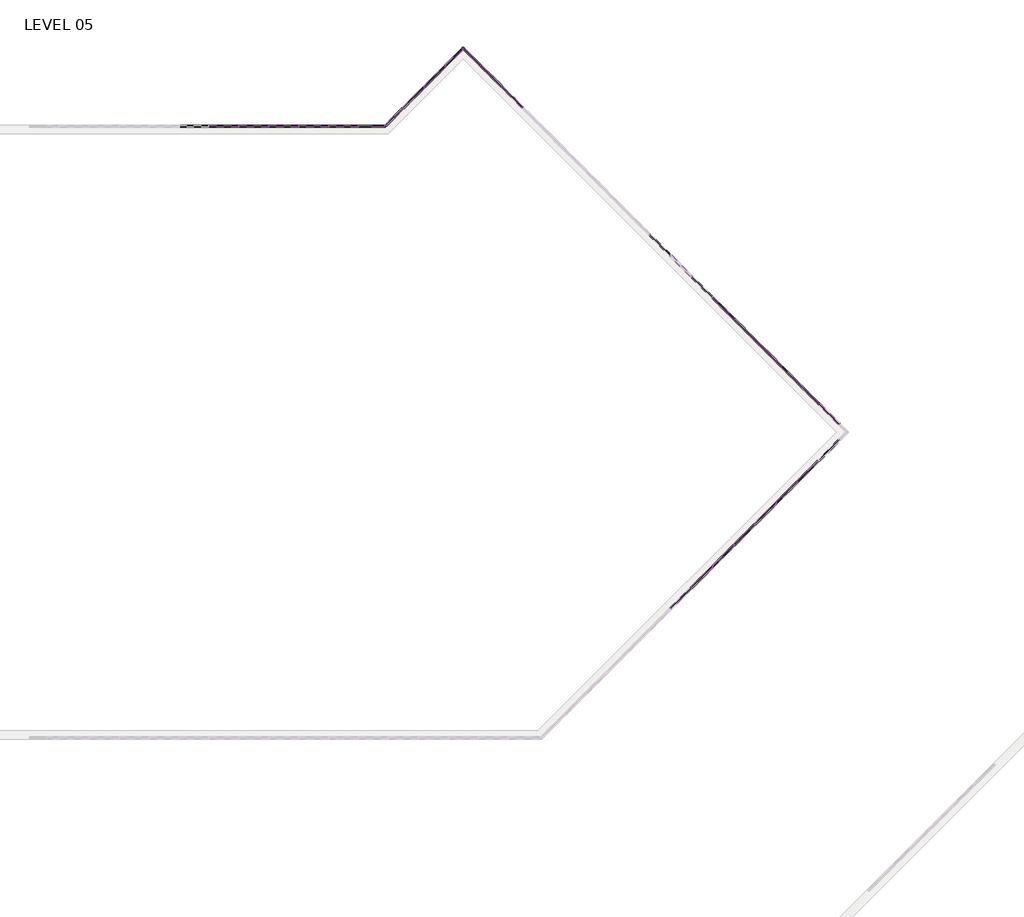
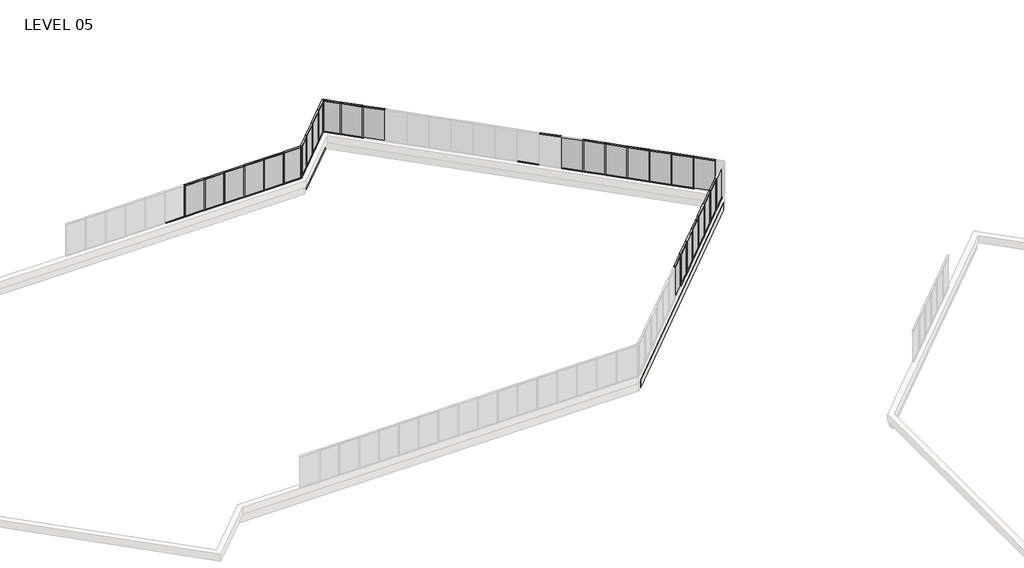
# One storey, part 15 of 17: 82 members, 28 plates, 2 walls.
"""IFC4 building model written with IfcOpenShell, lengths in millimetres."""

from ifc_helpers import new_model, si_unit, origin, place, context, project, spatial, faceted_brep, transform, mapped, element, save
from components import member_5247f267, member_e44af9ab, member_800970d4, member_45eb7f2e, member_ed9c17d6, member_53409b32, member_43bac76b, member_0b71a88d, plate_67294edd, plate_048e4634, plate_aaac5d3d, plate_9c66726c, plate_e0fd5134, plate_62af1d3c, plate_903242d9, plate_0d1907f3, plate_15429445

model = new_model("IFC4")

# Units and contexts
model_context = context("Model", 3, world=origin())
ifc_project = project(units=[si_unit("LENGTHUNIT", "METRE", prefix="MILLI")], contexts=[model_context])

# Site, building, storey
site = spatial("IfcSite", under=ifc_project)
building = spatial("IfcBuilding", under=site)
storey = spatial("IfcBuildingStorey", under=building, Name="LEVEL 05", Elevation=15824.2)

# Members
placement = place(None, origin())
member_shape = member_5247f267(model_context)
element("IfcMember", 1, ObjectType="Rectangular Mullion : 2\" x 4.5\" rectangular", at=placement, inside=storey, context=model_context, shape_type="MappedRepresentation", body=[
    mapped(member_shape, transform((39706.55, 120127.9523049, 15824.2), x_axis=(0.0, 0.0, -1.0), y_axis=(0.0, 1.0, 0.0), z_axis=(1.0, 0.0, 0.0))),
])
element("IfcMember", 2, ObjectType="Rectangular Mullion : 2\" x 4.5\" rectangular", at=placement, inside=storey, context=model_context, shape_type="MappedRepresentation", body=[
    mapped(member_shape, transform((38182.55, 120127.9523049, 15824.2), x_axis=(0.0, 0.0, -1.0), y_axis=(0.0, 1.0, 0.0), z_axis=(1.0, 0.0, 0.0))),
])
element("IfcMember", 3, ObjectType="Rectangular Mullion : 2\" x 4.5\" rectangular", at=placement, inside=storey, context=model_context, shape_type="MappedRepresentation", body=[
    mapped(member_shape, transform((36658.55, 120127.9523049, 15824.2), x_axis=(0.0, 0.0, -1.0), y_axis=(0.0, 1.0, 0.0), z_axis=(1.0, 0.0, 0.0))),
])
element("IfcMember", 4, ObjectType="Rectangular Mullion : 2\" x 4.5\" rectangular", at=placement, inside=storey, context=model_context, shape_type="MappedRepresentation", body=[
    mapped(member_shape, transform((35134.55, 120127.9523049, 15824.2), x_axis=(0.0, 0.0, -1.0), y_axis=(0.0, 1.0, 0.0), z_axis=(1.0, 0.0, 0.0))),
])
element("IfcMember", 5, ObjectType="Rectangular Mullion : 2\" x 4.5\" rectangular", at=placement, inside=storey, context=model_context, shape_type="MappedRepresentation", body=[
    mapped(member_shape, transform((32086.55, 120127.9523049, 15824.2), x_axis=(0.0, 0.0, -1.0), y_axis=(0.0, 1.0, 0.0), z_axis=(1.0, 0.0, 0.0))),
])
element("IfcMember", 6, ObjectType="Rectangular Mullion : 2\" x 4.5\" rectangular", at=placement, inside=storey, context=model_context, shape_type="MappedRepresentation", body=[
    mapped(member_shape, transform((33610.55, 120127.9523049, 15824.2), x_axis=(0.0, 0.0, -1.0), y_axis=(0.0, 1.0, 0.0), z_axis=(1.0, 0.0, 0.0))),
])
element("IfcMember", 7, ObjectType="Rectangular Mullion : 2\" x 4.5\" rectangular", at=placement, inside=storey, context=model_context, shape_type="MappedRepresentation", body=[
    mapped(member_shape, transform((56719.8907816, 96634.0369509, 15824.2), x_axis=(0.0, 0.0, -1.0), y_axis=(0.7071067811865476, -0.7071067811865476, 0.0), z_axis=(-0.7071067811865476, -0.7071067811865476, 0.0))),
])
element("IfcMember", 8, ObjectType="Rectangular Mullion : 2\" x 4.5\" rectangular", at=placement, inside=storey, context=model_context, shape_type="MappedRepresentation", body=[
    mapped(member_shape, transform((57797.5067145, 97711.6528837, 15824.2), x_axis=(0.0, 0.0, -1.0), y_axis=(0.7071067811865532, -0.7071067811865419, 0.0), z_axis=(-0.7071067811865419, -0.7071067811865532, 0.0))),
])
element("IfcMember", 9, ObjectType="Rectangular Mullion : 2\" x 4.5\" rectangular", at=placement, inside=storey, context=model_context, shape_type="MappedRepresentation", body=[
    mapped(member_shape, transform((58875.1226473, 98789.2688165, 15824.2), x_axis=(0.0, 0.0, -1.0), y_axis=(0.7071067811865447, -0.7071067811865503, 0.0), z_axis=(-0.7071067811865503, -0.7071067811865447, 0.0))),
])
element("IfcMember", 10, ObjectType="Rectangular Mullion : 2\" x 4.5\" rectangular", at=placement, inside=storey, context=model_context, shape_type="MappedRepresentation", body=[
    mapped(member_shape, transform((61030.3693146, 100944.5154839, 15824.2), x_axis=(0.0, 0.0, -1.0), y_axis=(0.7071067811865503, -0.7071067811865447, 0.0), z_axis=(-0.7071067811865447, -0.7071067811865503, 0.0))),
])
element("IfcMember", 11, ObjectType="Rectangular Mullion : 2\" x 4.5\" rectangular", at=placement, inside=storey, context=model_context, shape_type="MappedRepresentation", body=[
    mapped(member_shape, transform((59952.7459809, 99866.8921502, 15824.2), x_axis=(0.0, 0.0, -1.0), y_axis=(0.7071067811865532, -0.7071067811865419, 0.0), z_axis=(-0.7071067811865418, -0.7071067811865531, 0.0))),
])
element("IfcMember", 12, ObjectType="Rectangular Mullion : 2\" x 4.5\" rectangular", at=placement, inside=storey, context=model_context, shape_type="MappedRepresentation", body=[
    mapped(member_shape, transform((62108.0000491, 102022.1462184, 15824.2), x_axis=(0.0, 0.0, -1.0), y_axis=(0.7071067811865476, -0.7071067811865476, 0.0), z_axis=(-0.7071067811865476, -0.7071067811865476, 0.0))),
])
element("IfcMember", 13, ObjectType="Rectangular Mullion : 2\" x 4.5\" rectangular", at=placement, inside=storey, context=model_context, shape_type="MappedRepresentation", body=[
    mapped(member_shape, transform((63185.6307836, 103099.7769529, 15824.2), x_axis=(0.0, 0.0, -1.0), y_axis=(0.7071067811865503, -0.7071067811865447, 0.0), z_axis=(-0.7071067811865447, -0.7071067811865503, 0.0))),
])
element("IfcMember", 14, ObjectType="Rectangular Mullion : 2\" x 4.5\" rectangular", at=placement, inside=storey, context=model_context, shape_type="MappedRepresentation", body=[
    mapped(member_shape, transform((62072.0790246, 107097.5294159, 15824.2), x_axis=(0.0, 0.0, -1.0), y_axis=(0.7071067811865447, 0.7071067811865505, 0.0), z_axis=(0.7071067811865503, -0.7071067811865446, 0.0))),
])
element("IfcMember", 15, ObjectType="Rectangular Mullion : 2\" x 4.5\" rectangular", at=placement, inside=storey, context=model_context, shape_type="MappedRepresentation", body=[
    mapped(member_shape, transform((60994.4482901, 108175.1601505, 15824.2), x_axis=(0.0, 0.0, -1.0), y_axis=(0.7071067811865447, 0.7071067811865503, 0.0), z_axis=(0.7071067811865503, -0.7071067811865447, 0.0))),
])
element("IfcMember", 16, ObjectType="Rectangular Mullion : 2\" x 4.5\" rectangular", at=placement, inside=storey, context=model_context, shape_type="MappedRepresentation", body=[
    mapped(member_shape, transform((58839.2225556, 110330.385885, 15824.2), x_axis=(0.0, 0.0, -1.0), y_axis=(0.7071067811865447, 0.7071067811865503, 0.0), z_axis=(0.7071067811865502, -0.7071067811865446, 0.0))),
])
element("IfcMember", 17, ObjectType="Rectangular Mullion : 2\" x 4.5\" rectangular", at=placement, inside=storey, context=model_context, shape_type="MappedRepresentation", body=[
    mapped(member_shape, transform((57761.6275556, 111407.980885, 15824.2), x_axis=(0.0, 0.0, -1.0), y_axis=(0.7071067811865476, 0.7071067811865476, 0.0), z_axis=(0.7071067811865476, -0.7071067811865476, 0.0))),
])
element("IfcMember", 18, ObjectType="Rectangular Mullion : 2\" x 4.5\" rectangular", at=placement, inside=storey, context=model_context, shape_type="MappedRepresentation", body=[
    mapped(member_shape, transform((63149.7097592, 106019.8986814, 15824.2), x_axis=(0.0, 0.0, -1.0), y_axis=(0.7071067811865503, 0.7071067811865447, 0.0), z_axis=(0.7071067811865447, -0.7071067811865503, 0.0))),
])
element("IfcMember", 19, ObjectType="Rectangular Mullion : 2\" x 4.5\" rectangular", at=placement, inside=storey, context=model_context, shape_type="MappedRepresentation", body=[
    mapped(member_shape, transform((59916.8354228, 109252.7730177, 15824.2), x_axis=(0.0, 0.0, -1.0), y_axis=(0.7071067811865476, 0.7071067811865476, 0.0), z_axis=(0.7071067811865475, -0.7071067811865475, 0.0))),
])
element("IfcMember", 20, ObjectType="Rectangular Mullion : 2\" x 4.5\" rectangular", at=placement, inside=storey, context=model_context, shape_type="MappedRepresentation", body=[
    mapped(member_shape, transform((47009.3767128, 122160.2317277, 15824.2), x_axis=(0.0, 0.0, -1.0), y_axis=(0.7071067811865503, 0.7071067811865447, 0.0), z_axis=(0.7071067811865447, -0.7071067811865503, 0.0))),
])
element("IfcMember", 21, ObjectType="Rectangular Mullion : 2\" x 4.5\" rectangular", at=placement, inside=storey, context=model_context, shape_type="MappedRepresentation", body=[
    mapped(member_shape, transform((43059.572889, 122097.2813296, 15824.2), x_axis=(0.0, 0.0, -1.0), y_axis=(-0.7071067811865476, 0.7071067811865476, 0.0), z_axis=(0.7071067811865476, 0.7071067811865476, 0.0))),
])
element("IfcMember", 22, ObjectType="Rectangular Mullion : 2\" x 4.5\" rectangular", at=placement, inside=storey, context=model_context, shape_type="MappedRepresentation", body=[
    mapped(member_shape, transform((44137.2036235, 123174.9120641, 15824.2), x_axis=(0.0, 0.0, -1.0), y_axis=(-0.7071067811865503, 0.7071067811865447, 0.0), z_axis=(0.7071067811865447, 0.7071067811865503, 0.0))),
])
element("IfcMember", 23, ObjectType="Rectangular Mullion : 2\" x 4.5\" rectangular", at=placement, inside=storey, context=model_context, shape_type="MappedRepresentation", body=[
    mapped(member_shape, transform((38233.35, 120127.9523049, 18415.0), x_axis=(0.0, 0.0, 1.0), y_axis=(0.0, 1.0, 0.0), z_axis=(-1.0, 0.0, 0.0))),
])
element("IfcMember", 24, ObjectType="Rectangular Mullion : 2\" x 4.5\" rectangular", at=placement, inside=storey, context=model_context, shape_type="MappedRepresentation", body=[
    mapped(member_shape, transform((36709.35, 120127.9523049, 18415.0), x_axis=(0.0, 0.0, 1.0), y_axis=(0.0, 1.0, 0.0), z_axis=(-1.0, 0.0, 0.0))),
])
element("IfcMember", 25, ObjectType="Rectangular Mullion : 2\" x 4.5\" rectangular", at=placement, inside=storey, context=model_context, shape_type="MappedRepresentation", body=[
    mapped(member_shape, transform((35185.35, 120127.9523049, 18415.0), x_axis=(0.0, 0.0, 1.0), y_axis=(0.0, 1.0, 0.0), z_axis=(-1.0, 0.0, 0.0))),
])
element("IfcMember", 26, ObjectType="Rectangular Mullion : 2\" x 4.5\" rectangular", at=placement, inside=storey, context=model_context, shape_type="MappedRepresentation", body=[
    mapped(member_shape, transform((32137.35, 120127.9523049, 18415.0), x_axis=(0.0, 0.0, 1.0), y_axis=(0.0, 1.0, 0.0), z_axis=(-1.0, 0.0, 0.0))),
])
element("IfcMember", 27, ObjectType="Rectangular Mullion : 2\" x 4.5\" rectangular", at=placement, inside=storey, context=model_context, shape_type="MappedRepresentation", body=[
    mapped(member_shape, transform((33661.35, 120127.9523049, 18415.0), x_axis=(0.0, 0.0, 1.0), y_axis=(0.0, 1.0, 0.0), z_axis=(-1.0, 0.0, 0.0))),
])
element("IfcMember", 28, ObjectType="Rectangular Mullion : 2\" x 4.5\" rectangular", at=placement, inside=storey, context=model_context, shape_type="MappedRepresentation", body=[
    mapped(member_shape, transform((56683.9697572, 96598.1159265, 18415.0), x_axis=(0.0, 0.0, 1.0), y_axis=(0.7071067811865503, -0.7071067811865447, 0.0), z_axis=(0.7071067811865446, 0.7071067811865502, 0.0))),
])
element("IfcMember", 29, ObjectType="Rectangular Mullion : 2\" x 4.5\" rectangular", at=placement, inside=storey, context=model_context, shape_type="MappedRepresentation", body=[
    mapped(member_shape, transform((57761.58569, 97675.7318593, 18415.0), x_axis=(0.0, 0.0, 1.0), y_axis=(0.7071067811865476, -0.7071067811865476, 0.0), z_axis=(0.7071067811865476, 0.7071067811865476, 0.0))),
])
element("IfcMember", 30, ObjectType="Rectangular Mullion : 2\" x 4.5\" rectangular", at=placement, inside=storey, context=model_context, shape_type="MappedRepresentation", body=[
    mapped(member_shape, transform((58839.2016228, 98753.3477921, 18415.0), x_axis=(0.0, 0.0, 1.0), y_axis=(0.7071067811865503, -0.7071067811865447, 0.0), z_axis=(0.7071067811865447, 0.7071067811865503, 0.0))),
])
element("IfcMember", 31, ObjectType="Rectangular Mullion : 2\" x 4.5\" rectangular", at=placement, inside=storey, context=model_context, shape_type="MappedRepresentation", body=[
    mapped(member_shape, transform((60994.4482901, 100908.5944594, 18415.0), x_axis=(0.0, 0.0, 1.0), y_axis=(0.7071067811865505, -0.7071067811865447, 0.0), z_axis=(0.7071067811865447, 0.7071067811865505, 0.0))),
])
element("IfcMember", 32, ObjectType="Rectangular Mullion : 2\" x 4.5\" rectangular", at=placement, inside=storey, context=model_context, shape_type="MappedRepresentation", body=[
    mapped(member_shape, transform((59916.8249564, 99830.9711257, 18415.0), x_axis=(0.0, 0.0, 1.0), y_axis=(0.7071067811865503, -0.7071067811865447, 0.0), z_axis=(0.7071067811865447, 0.7071067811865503, 0.0))),
])
element("IfcMember", 33, ObjectType="Rectangular Mullion : 2\" x 4.5\" rectangular", at=placement, inside=storey, context=model_context, shape_type="MappedRepresentation", body=[
    mapped(member_shape, transform((62072.0790246, 101986.2251939, 18415.0), x_axis=(0.0, 0.0, 1.0), y_axis=(0.7071067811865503, -0.7071067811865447, 0.0), z_axis=(0.7071067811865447, 0.7071067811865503, 0.0))),
])
element("IfcMember", 34, ObjectType="Rectangular Mullion : 2\" x 4.5\" rectangular", at=placement, inside=storey, context=model_context, shape_type="MappedRepresentation", body=[
    mapped(member_shape, transform((63149.7097592, 103063.8559285, 18415.0), x_axis=(0.0, 0.0, 1.0), y_axis=(0.7071067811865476, -0.7071067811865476, 0.0), z_axis=(0.7071067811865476, 0.7071067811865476, 0.0))),
])
element("IfcMember", 35, ObjectType="Rectangular Mullion : 2\" x 4.5\" rectangular", at=placement, inside=storey, context=model_context, shape_type="MappedRepresentation", body=[
    mapped(member_shape, transform((62108.0000491, 107061.6083914, 18415.0), x_axis=(0.0, 0.0, 1.0), y_axis=(0.7071067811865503, 0.7071067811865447, 0.0), z_axis=(-0.7071067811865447, 0.7071067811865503, 0.0))),
])
element("IfcMember", 36, ObjectType="Rectangular Mullion : 2\" x 4.5\" rectangular", at=placement, inside=storey, context=model_context, shape_type="MappedRepresentation", body=[
    mapped(member_shape, transform((61030.3693146, 108139.239126, 18415.0), x_axis=(0.0, 0.0, 1.0), y_axis=(0.7071067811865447, 0.7071067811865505, 0.0), z_axis=(-0.7071067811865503, 0.7071067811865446, 0.0))),
])
element("IfcMember", 37, ObjectType="Rectangular Mullion : 2\" x 4.5\" rectangular", at=placement, inside=storey, context=model_context, shape_type="MappedRepresentation", body=[
    mapped(member_shape, transform((58875.1435801, 110294.4648605, 18415.0), x_axis=(0.0, 0.0, 1.0), y_axis=(0.7071067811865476, 0.7071067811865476, 0.0), z_axis=(-0.7071067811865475, 0.7071067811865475, 0.0))),
])
element("IfcMember", 38, ObjectType="Rectangular Mullion : 2\" x 4.5\" rectangular", at=placement, inside=storey, context=model_context, shape_type="MappedRepresentation", body=[
    mapped(member_shape, transform((57797.5485801, 111372.0598605, 18415.0), x_axis=(0.0, 0.0, 1.0), y_axis=(0.7071067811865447, 0.7071067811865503, 0.0), z_axis=(-0.7071067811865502, 0.7071067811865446, 0.0))),
])
element("IfcMember", 39, ObjectType="Rectangular Mullion : 2\" x 4.5\" rectangular", at=placement, inside=storey, context=model_context, shape_type="MappedRepresentation", body=[
    mapped(member_shape, transform((55642.3585801, 113527.2498605, 18415.0), x_axis=(0.0, 0.0, 1.0), y_axis=(0.7071067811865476, 0.7071067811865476, 0.0), z_axis=(-0.7071067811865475, 0.7071067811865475, 0.0))),
])
element("IfcMember", 40, ObjectType="Rectangular Mullion : 2\" x 4.5\" rectangular", at=placement, inside=storey, context=model_context, shape_type="MappedRepresentation", body=[
    mapped(member_shape, transform((63185.6307836, 105983.9776569, 18415.0), x_axis=(0.0, 0.0, 1.0), y_axis=(0.7071067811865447, 0.7071067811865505, 0.0), z_axis=(-0.7071067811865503, 0.7071067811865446, 0.0))),
])
element("IfcMember", 41, ObjectType="Rectangular Mullion : 2\" x 4.5\" rectangular", at=placement, inside=storey, context=model_context, shape_type="MappedRepresentation", body=[
    mapped(member_shape, transform((59952.7564473, 109216.8519932, 18415.0), x_axis=(0.0, 0.0, 1.0), y_axis=(0.7071067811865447, 0.7071067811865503, 0.0), z_axis=(-0.7071067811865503, 0.7071067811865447, 0.0))),
])
element("IfcMember", 42, ObjectType="Rectangular Mullion : 2\" x 4.5\" rectangular", at=placement, inside=storey, context=model_context, shape_type="MappedRepresentation", body=[
    mapped(member_shape, transform((47045.2977373, 122124.3107033, 18415.0), x_axis=(0.0, 0.0, 1.0), y_axis=(0.7071067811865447, 0.7071067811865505, 0.0), z_axis=(-0.7071067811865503, 0.7071067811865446, 0.0))),
])
element("IfcMember", 43, ObjectType="Rectangular Mullion : 2\" x 4.5\" rectangular", at=placement, inside=storey, context=model_context, shape_type="MappedRepresentation", body=[
    mapped(member_shape, transform((45967.6670028, 123201.9414378, 18415.0), x_axis=(0.0, 0.0, 1.0), y_axis=(0.7071067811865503, 0.7071067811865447, 0.0), z_axis=(-0.7071067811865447, 0.7071067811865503, 0.0))),
])
element("IfcMember", 44, ObjectType="Rectangular Mullion : 2\" x 4.5\" rectangular", at=placement, inside=storey, context=model_context, shape_type="MappedRepresentation", body=[
    mapped(member_shape, transform((43095.4939135, 122133.202354, 18415.0), x_axis=(0.0, 0.0, 1.0), y_axis=(-0.7071067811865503, 0.7071067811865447, 0.0), z_axis=(-0.7071067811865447, -0.7071067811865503, 0.0))),
])
element("IfcMember", 45, ObjectType="Rectangular Mullion : 2\" x 4.5\" rectangular", at=placement, inside=storey, context=model_context, shape_type="MappedRepresentation", body=[
    mapped(member_shape, transform((42017.863179, 121055.5716195, 18415.0), x_axis=(0.0, 0.0, 1.0), y_axis=(-0.7071067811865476, 0.7071067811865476, 0.0), z_axis=(-0.7071067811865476, -0.7071067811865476, 0.0))),
])
member_2_shape = member_e44af9ab(model_context)
element("IfcMember", 46, ObjectType="Rectangular Mullion : 2\" x 4.5\" rectangular", at=placement, inside=storey, context=model_context, shape_type="MappedRepresentation", body=[
    mapped(member_2_shape, transform((39731.95, 120127.9523049, 15824.2), x_axis=(-1.0, 0.0, 0.0), y_axis=(0.0, 1.0, 0.0), z_axis=(0.0, 0.0, -1.0))),
])
element("IfcMember", 47, ObjectType="Rectangular Mullion : 2\" x 4.5\" rectangular", at=placement, inside=storey, context=model_context, shape_type="MappedRepresentation", body=[
    mapped(member_2_shape, transform((38207.95, 120127.9523049, 15824.2), x_axis=(-1.0, 0.0, 0.0), y_axis=(0.0, 1.0, 0.0), z_axis=(0.0, 0.0, -1.0))),
])
element("IfcMember", 48, ObjectType="Rectangular Mullion : 2\" x 4.5\" rectangular", at=placement, inside=storey, context=model_context, shape_type="MappedRepresentation", body=[
    mapped(member_2_shape, transform((36683.95, 120127.9523049, 15824.2), x_axis=(-1.0, 0.0, 0.0), y_axis=(0.0, 1.0, 0.0), z_axis=(0.0, 0.0, -1.0))),
])
element("IfcMember", 49, ObjectType="Rectangular Mullion : 2\" x 4.5\" rectangular", at=placement, inside=storey, context=model_context, shape_type="MappedRepresentation", body=[
    mapped(member_2_shape, transform((35159.95, 120127.9523049, 15824.2), x_axis=(-1.0, 0.0, 0.0), y_axis=(0.0, 1.0, 0.0), z_axis=(0.0, 0.0, -1.0))),
])
element("IfcMember", 50, ObjectType="Rectangular Mullion : 2\" x 4.5\" rectangular", at=placement, inside=storey, context=model_context, shape_type="MappedRepresentation", body=[
    mapped(member_2_shape, transform((32111.95, 120127.9523049, 15824.2), x_axis=(-1.0, 0.0, 0.0), y_axis=(0.0, 1.0, 0.0), z_axis=(0.0, 0.0, -1.0))),
])
element("IfcMember", 51, ObjectType="Rectangular Mullion : 2\" x 4.5\" rectangular", at=placement, inside=storey, context=model_context, shape_type="MappedRepresentation", body=[
    mapped(member_2_shape, transform((33635.95, 120127.9523049, 15824.2), x_axis=(-1.0, 0.0, 0.0), y_axis=(0.0, 1.0, 0.0), z_axis=(0.0, 0.0, -1.0))),
])
element("IfcMember", 52, ObjectType="Rectangular Mullion : 2\" x 4.5\" rectangular", at=placement, inside=storey, context=model_context, shape_type="MappedRepresentation", body=[
    mapped(member_2_shape, transform((56701.9302694, 96616.0764387, 15824.2), x_axis=(0.7071067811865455, 0.7071067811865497, 0.0), y_axis=(0.7071067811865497, -0.7071067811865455, 0.0), z_axis=(0.0, 0.0, -1.0))),
])
element("IfcMember", 53, ObjectType="Rectangular Mullion : 2\" x 4.5\" rectangular", at=placement, inside=storey, context=model_context, shape_type="MappedRepresentation", body=[
    mapped(member_2_shape, transform((57779.5462022, 97693.6923715, 15824.2), x_axis=(0.7071067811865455, 0.7071067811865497, 0.0), y_axis=(0.7071067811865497, -0.7071067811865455, 0.0), z_axis=(0.0, 0.0, -1.0))),
])
element("IfcMember", 54, ObjectType="Rectangular Mullion : 2\" x 4.5\" rectangular", at=placement, inside=storey, context=model_context, shape_type="MappedRepresentation", body=[
    mapped(member_2_shape, transform((58857.162135, 98771.3083043, 15824.2), x_axis=(0.7071067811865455, 0.7071067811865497, 0.0), y_axis=(0.7071067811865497, -0.7071067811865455, 0.0), z_axis=(0.0, 0.0, -1.0))),
])
element("IfcMember", 55, ObjectType="Rectangular Mullion : 2\" x 4.5\" rectangular", at=placement, inside=storey, context=model_context, shape_type="MappedRepresentation", body=[
    mapped(member_2_shape, transform((61012.4088023, 100926.5549716, 15824.2), x_axis=(0.7071067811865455, 0.7071067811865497, 0.0), y_axis=(0.7071067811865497, -0.7071067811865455, 0.0), z_axis=(0.0, 0.0, -1.0))),
])
element("IfcMember", 56, ObjectType="Rectangular Mullion : 2\" x 4.5\" rectangular", at=placement, inside=storey, context=model_context, shape_type="MappedRepresentation", body=[
    mapped(member_2_shape, transform((59934.7854687, 99848.931638, 15824.2), x_axis=(0.7071067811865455, 0.7071067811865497, 0.0), y_axis=(0.7071067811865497, -0.7071067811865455, 0.0), z_axis=(0.0, 0.0, -1.0))),
])
element("IfcMember", 57, ObjectType="Rectangular Mullion : 2\" x 4.5\" rectangular", at=placement, inside=storey, context=model_context, shape_type="MappedRepresentation", body=[
    mapped(member_2_shape, transform((62090.0395369, 102004.1857062, 15824.2), x_axis=(0.7071067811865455, 0.7071067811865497, 0.0), y_axis=(0.7071067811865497, -0.7071067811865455, 0.0), z_axis=(0.0, 0.0, -1.0))),
])
element("IfcMember", 58, ObjectType="Rectangular Mullion : 2\" x 4.5\" rectangular", at=placement, inside=storey, context=model_context, shape_type="MappedRepresentation", body=[
    mapped(member_2_shape, transform((63167.6702714, 103081.8164407, 15824.2), x_axis=(0.7071067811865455, 0.7071067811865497, 0.0), y_axis=(0.7071067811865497, -0.7071067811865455, 0.0), z_axis=(0.0, 0.0, -1.0))),
])
element("IfcMember", 59, ObjectType="Rectangular Mullion : 2\" x 4.5\" rectangular", at=placement, inside=storey, context=model_context, shape_type="MappedRepresentation", body=[
    mapped(member_2_shape, transform((62090.0395369, 107079.5689037, 15824.2), x_axis=(-0.7071067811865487, 0.7071067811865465, 0.0), y_axis=(0.7071067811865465, 0.7071067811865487, 0.0), z_axis=(0.0, 0.0, -1.0))),
])
element("IfcMember", 60, ObjectType="Rectangular Mullion : 2\" x 4.5\" rectangular", at=placement, inside=storey, context=model_context, shape_type="MappedRepresentation", body=[
    mapped(member_2_shape, transform((61012.4088023, 108157.1996382, 15824.2), x_axis=(-0.7071067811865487, 0.7071067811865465, 0.0), y_axis=(0.7071067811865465, 0.7071067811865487, 0.0), z_axis=(0.0, 0.0, -1.0))),
])
element("IfcMember", 61, ObjectType="Rectangular Mullion : 2\" x 4.5\" rectangular", at=placement, inside=storey, context=model_context, shape_type="MappedRepresentation", body=[
    mapped(member_2_shape, transform((58857.1830678, 110312.4253727, 15824.2), x_axis=(-0.7071067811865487, 0.7071067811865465, 0.0), y_axis=(0.7071067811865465, 0.7071067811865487, 0.0), z_axis=(0.0, 0.0, -1.0))),
])
element("IfcMember", 62, ObjectType="Rectangular Mullion : 2\" x 4.5\" rectangular", at=placement, inside=storey, context=model_context, shape_type="MappedRepresentation", body=[
    mapped(member_2_shape, transform((57779.5880678, 111390.0203727, 15824.2), x_axis=(-0.7071067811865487, 0.7071067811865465, 0.0), y_axis=(0.7071067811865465, 0.7071067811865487, 0.0), z_axis=(0.0, 0.0, -1.0))),
])
element("IfcMember", 63, ObjectType="Rectangular Mullion : 2\" x 4.5\" rectangular", at=placement, inside=storey, context=model_context, shape_type="MappedRepresentation", body=[
    mapped(member_2_shape, transform((63167.6702714, 106001.9381692, 15824.2), x_axis=(-0.7071067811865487, 0.7071067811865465, 0.0), y_axis=(0.7071067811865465, 0.7071067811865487, 0.0), z_axis=(0.0, 0.0, -1.0))),
])
element("IfcMember", 64, ObjectType="Rectangular Mullion : 2\" x 4.5\" rectangular", at=placement, inside=storey, context=model_context, shape_type="MappedRepresentation", body=[
    mapped(member_2_shape, transform((59934.7959351, 109234.8125055, 15824.2), x_axis=(-0.7071067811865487, 0.7071067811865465, 0.0), y_axis=(0.7071067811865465, 0.7071067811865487, 0.0), z_axis=(0.0, 0.0, -1.0))),
])
element("IfcMember", 65, ObjectType="Rectangular Mullion : 2\" x 4.5\" rectangular", at=placement, inside=storey, context=model_context, shape_type="MappedRepresentation", body=[
    mapped(member_2_shape, transform((47027.3372251, 122142.2712155, 15824.2), x_axis=(-0.7071067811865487, 0.7071067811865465, 0.0), y_axis=(0.7071067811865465, 0.7071067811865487, 0.0), z_axis=(0.0, 0.0, -1.0))),
])
element("IfcMember", 66, ObjectType="Rectangular Mullion : 2\" x 4.5\" rectangular", at=placement, inside=storey, context=model_context, shape_type="MappedRepresentation", body=[
    mapped(member_2_shape, transform((45949.7064905, 123219.90195, 15824.2), x_axis=(-0.7071067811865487, 0.7071067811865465, 0.0), y_axis=(0.7071067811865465, 0.7071067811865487, 0.0), z_axis=(0.0, 0.0, -1.0))),
])
element("IfcMember", 67, ObjectType="Rectangular Mullion : 2\" x 4.5\" rectangular", at=placement, inside=storey, context=model_context, shape_type="MappedRepresentation", body=[
    mapped(member_2_shape, transform((43077.5334012, 122115.2418418, 15824.2), x_axis=(-0.7071067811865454, -0.7071067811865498, 0.0), y_axis=(-0.7071067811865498, 0.7071067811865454, 0.0), z_axis=(0.0, 0.0, -1.0))),
])
element("IfcMember", 68, ObjectType="Rectangular Mullion : 2\" x 4.5\" rectangular", at=placement, inside=storey, context=model_context, shape_type="MappedRepresentation", body=[
    mapped(member_2_shape, transform((41999.9026667, 121037.6111073, 15824.2), x_axis=(-0.7071067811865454, -0.7071067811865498, 0.0), y_axis=(-0.7071067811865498, 0.7071067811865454, 0.0), z_axis=(0.0, 0.0, -1.0))),
])
element("IfcMember", 69, ObjectType="Rectangular Mullion : 2\" x 4.5\" rectangular", at=placement, inside=storey, context=model_context, shape_type="MappedRepresentation", body=[
    mapped(member_2_shape, transform((44155.1641358, 123192.8725763, 15824.2), x_axis=(-0.7071067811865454, -0.7071067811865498, 0.0), y_axis=(-0.7071067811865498, 0.7071067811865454, 0.0), z_axis=(0.0, 0.0, -1.0))),
])
member_3_shape = member_800970d4(model_context)
element("IfcMember", 70, ObjectType="Rectangular Mullion : 2\" x 4.5\" rectangular", at=placement, inside=storey, context=model_context, shape_type="MappedRepresentation", body=[
    mapped(member_3_shape, transform((45065.95, 124103.6584406, 15824.2), x_axis=(-0.7071067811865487, 0.7071067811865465, 0.0), y_axis=(0.7071067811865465, 0.7071067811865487, 0.0), z_axis=(0.0, 0.0, -1.0))),
])
element("IfcMember", 71, ObjectType="Rectangular Mullion : 2\" x 4.5\" rectangular", at=placement, inside=storey, context=model_context, shape_type="MappedRepresentation", body=[
    mapped(member_3_shape, transform((41090.2438644, 120127.9523049, 15824.2), x_axis=(-0.7071067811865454, -0.7071067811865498, 0.0), y_axis=(-0.7071067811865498, 0.7071067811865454, 0.0), z_axis=(0.0, 0.0, -1.0))),
])
element("IfcMember", 72, ObjectType="Rectangular Mullion : 2\" x 4.5\" rectangular", at=placement, inside=storey, context=model_context, shape_type="MappedRepresentation", body=[
    mapped(member_3_shape, transform((41090.2438644, 120127.9523049, 18415.0), x_axis=(1.0, 0.0, 0.0), y_axis=(0.0, 1.0, 0.0), z_axis=(0.0, 0.0, 1.0))),
])
element("IfcMember", 73, ObjectType="Rectangular Mullion : 2\" x 4.5\" rectangular", at=placement, inside=storey, context=model_context, shape_type="MappedRepresentation", body=[
    mapped(member_3_shape, transform((45065.95, 124103.6584406, 18415.0), x_axis=(0.7071067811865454, 0.7071067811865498, 0.0), y_axis=(-0.7071067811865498, 0.7071067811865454, 0.0), z_axis=(0.0, 0.0, 1.0))),
])
member_4_shape = member_45eb7f2e(model_context)
element("IfcMember", 74, ObjectType="Rectangular Mullion : 2\" x 4.5\" rectangular", at=placement, inside=storey, context=model_context, shape_type="MappedRepresentation", body=[
    mapped(member_4_shape, transform((39757.35, 120127.9523049, 18415.0), x_axis=(0.0, 0.0, 1.0), y_axis=(0.0, 1.0, 0.0), z_axis=(-1.0, 0.0, 0.0))),
])
element("IfcMember", 75, ObjectType="Rectangular Mullion : 2\" x 4.5\" rectangular", at=placement, inside=storey, context=model_context, shape_type="MappedRepresentation", body=[
    mapped(member_4_shape, transform((41039.4438644, 120127.9523049, 15824.2), x_axis=(0.0, 0.0, -1.0), y_axis=(0.0, 1.0, 0.0), z_axis=(1.0, 0.0, 0.0))),
])
member_5_shape = member_ed9c17d6(model_context)
element("IfcMember", 76, ObjectType="Rectangular Mullion : 2\" x 4.5\" rectangular", at=placement, inside=storey, context=model_context, shape_type="MappedRepresentation", body=[
    mapped(member_5_shape, transform((55606.4375556, 113563.170885, 15824.2), x_axis=(0.0, 0.0, -1.0), y_axis=(0.7071067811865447, 0.7071067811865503, 0.0), z_axis=(0.7071067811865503, -0.7071067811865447, 0.0))),
])
member_6_shape = member_53409b32(model_context)
element("IfcMember", 77, ObjectType="Rectangular Mullion : 2\" x 4.5\" rectangular", at=placement, inside=storey, context=model_context, shape_type="MappedRepresentation", body=[
    mapped(member_6_shape, transform((45101.8710245, 124067.7374161, 18415.0), x_axis=(0.0, 0.0, 1.0), y_axis=(0.7071067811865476, 0.7071067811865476, 0.0), z_axis=(-0.7071067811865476, 0.7071067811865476, 0.0))),
])
element("IfcMember", 78, ObjectType="Rectangular Mullion : 2\" x 4.5\" rectangular", at=placement, inside=storey, context=model_context, shape_type="MappedRepresentation", body=[
    mapped(member_6_shape, transform((45931.7459783, 123237.8624623, 15824.2), x_axis=(0.0, 0.0, -1.0), y_axis=(0.7071067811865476, 0.7071067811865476, 0.0), z_axis=(0.7071067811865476, -0.7071067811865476, 0.0))),
])
member_7_shape = member_43bac76b(model_context)
element("IfcMember", 79, ObjectType="Rectangular Mullion : 2\" x 4.5\" rectangular", at=placement, inside=storey, context=model_context, shape_type="MappedRepresentation", body=[
    mapped(member_7_shape, transform((41126.1648889, 120163.8733294, 18415.0), x_axis=(0.0, 0.0, 1.0), y_axis=(-0.7071067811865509, 0.7071067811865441, 0.0), z_axis=(-0.7071067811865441, -0.7071067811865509, 0.0))),
])
element("IfcMember", 80, ObjectType="Rectangular Mullion : 2\" x 4.5\" rectangular", at=placement, inside=storey, context=model_context, shape_type="MappedRepresentation", body=[
    mapped(member_7_shape, transform((41981.9421545, 121019.650595, 15824.2), x_axis=(0.0, 0.0, -1.0), y_axis=(-0.7071067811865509, 0.7071067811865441, 0.0), z_axis=(0.7071067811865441, 0.7071067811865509, 0.0))),
])
member_8_shape = member_0b71a88d(model_context)
element("IfcMember", 81, ObjectType="Rectangular Mullion : 2\" x 4.5\" rectangular", at=placement, inside=storey, context=model_context, shape_type="MappedRepresentation", body=[
    mapped(member_8_shape, transform((45030.0289755, 124067.7374161, 15824.2), x_axis=(0.0, 0.0, -1.0), y_axis=(-0.7071067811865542, 0.7071067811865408, 0.0), z_axis=(0.7071067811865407, 0.7071067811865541, 0.0))),
])
element("IfcMember", 82, ObjectType="Rectangular Mullion : 2\" x 4.5\" rectangular", at=placement, inside=storey, context=model_context, shape_type="MappedRepresentation", body=[
    mapped(member_8_shape, transform((44173.124648, 123210.8330886, 18415.0), x_axis=(0.0, 0.0, 1.0), y_axis=(-0.7071067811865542, 0.7071067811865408, 0.0), z_axis=(-0.7071067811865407, -0.7071067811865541, 0.0))),
])

# Plates
plate_shape = plate_67294edd(model_context)
element("IfcPlate", 83, ObjectType="System Panel : 1/4\" Glass", at=placement, inside=storey, context=model_context, shape_type="MappedRepresentation", body=[
    mapped(plate_shape, transform((38969.95, 120127.9523049, 15875.0), x_axis=(-1.0, 0.0, 0.0), y_axis=(0.0, -1.0, 0.0), z_axis=(0.0, 0.0, 1.0))),
])
element("IfcPlate", 84, ObjectType="System Panel : 1/4\" Glass", at=placement, inside=storey, context=model_context, shape_type="MappedRepresentation", body=[
    mapped(plate_shape, transform((37445.95, 120127.9523049, 15875.0), x_axis=(-1.0, 0.0, 0.0), y_axis=(0.0, -1.0, 0.0), z_axis=(0.0, 0.0, 1.0))),
])
element("IfcPlate", 85, ObjectType="System Panel : 1/4\" Glass", at=placement, inside=storey, context=model_context, shape_type="MappedRepresentation", body=[
    mapped(plate_shape, transform((35921.95, 120127.9523049, 15875.0), x_axis=(-1.0, 0.0, 0.0), y_axis=(0.0, -1.0, 0.0), z_axis=(0.0, 0.0, 1.0))),
])
element("IfcPlate", 86, ObjectType="System Panel : 1/4\" Glass", at=placement, inside=storey, context=model_context, shape_type="MappedRepresentation", body=[
    mapped(plate_shape, transform((34397.95, 120127.9523049, 15875.0), x_axis=(-1.0, 0.0, 0.0), y_axis=(0.0, -1.0, 0.0), z_axis=(0.0, 0.0, 1.0))),
])
element("IfcPlate", 87, ObjectType="System Panel : 1/4\" Glass", at=placement, inside=storey, context=model_context, shape_type="MappedRepresentation", body=[
    mapped(plate_shape, transform((32873.95, 120127.9523049, 15875.0), x_axis=(-1.0, 0.0, 0.0), y_axis=(0.0, -1.0, 0.0), z_axis=(0.0, 0.0, 1.0))),
])
element("IfcPlate", 88, ObjectType="System Panel : 1/4\" Glass", at=placement, inside=storey, context=model_context, shape_type="MappedRepresentation", body=[
    mapped(plate_shape, transform((61551.2241696, 101465.3703389, 15875.0), x_axis=(0.7071067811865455, 0.7071067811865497, 0.0), y_axis=(-0.7071067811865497, 0.7071067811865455, 0.0), z_axis=(0.0, 0.0, 1.0))),
])
element("IfcPlate", 89, ObjectType="System Panel : 1/4\" Glass", at=placement, inside=storey, context=model_context, shape_type="MappedRepresentation", body=[
    mapped(plate_shape, transform((62628.8549041, 102543.0010734, 15875.0), x_axis=(0.7071067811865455, 0.7071067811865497, 0.0), y_axis=(-0.7071067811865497, 0.7071067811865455, 0.0), z_axis=(0.0, 0.0, 1.0))),
])
element("IfcPlate", 90, ObjectType="System Panel : 1/4\" Glass", at=placement, inside=storey, context=model_context, shape_type="MappedRepresentation", body=[
    mapped(plate_shape, transform((63706.4856387, 103620.631808, 15875.0), x_axis=(0.7071067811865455, 0.7071067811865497, 0.0), y_axis=(-0.7071067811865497, 0.7071067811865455, 0.0), z_axis=(0.0, 0.0, 1.0))),
])
element("IfcPlate", 91, ObjectType="System Panel : 1/4\" Glass", at=placement, inside=storey, context=model_context, shape_type="MappedRepresentation", body=[
    mapped(plate_shape, transform((61551.2241696, 107618.3842709, 15875.0), x_axis=(-0.7071067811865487, 0.7071067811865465, 0.0), y_axis=(-0.7071067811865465, -0.7071067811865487, 0.0), z_axis=(0.0, 0.0, 1.0))),
])
element("IfcPlate", 92, ObjectType="System Panel : 1/4\" Glass", at=placement, inside=storey, context=model_context, shape_type="MappedRepresentation", body=[
    mapped(plate_shape, transform((62628.8549041, 106540.7535364, 15875.0), x_axis=(-0.7071067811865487, 0.7071067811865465, 0.0), y_axis=(-0.7071067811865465, -0.7071067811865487, 0.0), z_axis=(0.0, 0.0, 1.0))),
])
element("IfcPlate", 93, ObjectType="System Panel : 1/4\" Glass", at=placement, inside=storey, context=model_context, shape_type="MappedRepresentation", body=[
    mapped(plate_shape, transform((63706.4856387, 105463.1228019, 15875.0), x_axis=(-0.7071067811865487, 0.7071067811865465, 0.0), y_axis=(-0.7071067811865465, -0.7071067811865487, 0.0), z_axis=(0.0, 0.0, 1.0))),
])
element("IfcPlate", 94, ObjectType="System Panel : 1/4\" Glass", at=placement, inside=storey, context=model_context, shape_type="MappedRepresentation", body=[
    mapped(plate_shape, transform((47566.1525923, 121603.4558482, 15875.0), x_axis=(-0.7071067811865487, 0.7071067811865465, 0.0), y_axis=(-0.7071067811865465, -0.7071067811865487, 0.0), z_axis=(0.0, 0.0, 1.0))),
])
element("IfcPlate", 95, ObjectType="System Panel : 1/4\" Glass", at=placement, inside=storey, context=model_context, shape_type="MappedRepresentation", body=[
    mapped(plate_shape, transform((46488.5218578, 122681.0865828, 15875.0), x_axis=(-0.7071067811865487, 0.7071067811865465, 0.0), y_axis=(-0.7071067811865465, -0.7071067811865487, 0.0), z_axis=(0.0, 0.0, 1.0))),
])
element("IfcPlate", 96, ObjectType="System Panel : 1/4\" Glass", at=placement, inside=storey, context=model_context, shape_type="MappedRepresentation", body=[
    mapped(plate_shape, transform((42538.718034, 121576.4264745, 15875.0), x_axis=(-0.7071067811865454, -0.7071067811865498, 0.0), y_axis=(0.7071067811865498, -0.7071067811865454, 0.0), z_axis=(0.0, 0.0, 1.0))),
])
element("IfcPlate", 97, ObjectType="System Panel : 1/4\" Glass", at=placement, inside=storey, context=model_context, shape_type="MappedRepresentation", body=[
    mapped(plate_shape, transform((43616.3487685, 122654.0572091, 15875.0), x_axis=(-0.7071067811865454, -0.7071067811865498, 0.0), y_axis=(0.7071067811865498, -0.7071067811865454, 0.0), z_axis=(0.0, 0.0, 1.0))),
])
plate_2_shape = plate_048e4634(model_context)
element("IfcPlate", 98, ObjectType="System Panel : 1/4\" Glass", at=placement, inside=storey, context=model_context, shape_type="MappedRepresentation", body=[
    mapped(plate_2_shape, transform((58318.3855678, 110851.2228727, 15875.0), x_axis=(-0.7071067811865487, 0.7071067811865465, 0.0), y_axis=(-0.7071067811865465, -0.7071067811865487, 0.0), z_axis=(0.0, 0.0, 1.0))),
])
element("IfcPlate", 99, ObjectType="System Panel : 1/4\" Glass", at=placement, inside=storey, context=model_context, shape_type="MappedRepresentation", body=[
    mapped(plate_2_shape, transform((57240.7905678, 111928.8178727, 15875.0), x_axis=(-0.7071067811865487, 0.7071067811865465, 0.0), y_axis=(-0.7071067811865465, -0.7071067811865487, 0.0), z_axis=(0.0, 0.0, 1.0))),
])
plate_3_shape = plate_aaac5d3d(model_context)
element("IfcPlate", 100, ObjectType="System Panel : 1/4\" Glass", at=placement, inside=storey, context=model_context, shape_type="MappedRepresentation", body=[
    mapped(plate_3_shape, transform((56163.122303, 96077.2684723, 15875.0), x_axis=(0.7071067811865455, 0.7071067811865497, 0.0), y_axis=(-0.7071067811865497, 0.7071067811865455, 0.0), z_axis=(0.0, 0.0, 1.0))),
])
element("IfcPlate", 101, ObjectType="System Panel : 1/4\" Glass", at=placement, inside=storey, context=model_context, shape_type="MappedRepresentation", body=[
    mapped(plate_3_shape, transform((57240.7382358, 97154.8844051, 15875.0), x_axis=(0.7071067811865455, 0.7071067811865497, 0.0), y_axis=(-0.7071067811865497, 0.7071067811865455, 0.0), z_axis=(0.0, 0.0, 1.0))),
])
element("IfcPlate", 102, ObjectType="System Panel : 1/4\" Glass", at=placement, inside=storey, context=model_context, shape_type="MappedRepresentation", body=[
    mapped(plate_3_shape, transform((58318.3541686, 98232.5003379, 15875.0), x_axis=(0.7071067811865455, 0.7071067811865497, 0.0), y_axis=(-0.7071067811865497, 0.7071067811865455, 0.0), z_axis=(0.0, 0.0, 1.0))),
])
plate_4_shape = plate_9c66726c(model_context)
element("IfcPlate", 103, ObjectType="System Panel : 1/4\" Glass", at=placement, inside=storey, context=model_context, shape_type="MappedRepresentation", body=[
    mapped(plate_4_shape, transform((40398.3969322, 120127.9523049, 15875.0), x_axis=(-1.0, 0.0, 0.0), y_axis=(0.0, -1.0, 0.0), z_axis=(0.0, 0.0, 1.0))),
])
plate_5_shape = plate_e0fd5134(model_context)
element("IfcPlate", 104, ObjectType="System Panel : 1/4\" Glass", at=placement, inside=storey, context=model_context, shape_type="MappedRepresentation", body=[
    mapped(plate_5_shape, transform((59395.9738018, 99310.1199711, 15875.0), x_axis=(0.7071067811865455, 0.7071067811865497, 0.0), y_axis=(-0.7071067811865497, 0.7071067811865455, 0.0), z_axis=(0.0, 0.0, 1.0))),
])
element("IfcPlate", 105, ObjectType="System Panel : 1/4\" Glass", at=placement, inside=storey, context=model_context, shape_type="MappedRepresentation", body=[
    mapped(plate_5_shape, transform((60473.5971355, 100387.7433048, 15875.0), x_axis=(0.7071067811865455, 0.7071067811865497, 0.0), y_axis=(-0.7071067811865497, 0.7071067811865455, 0.0), z_axis=(0.0, 0.0, 1.0))),
])
plate_6_shape = plate_62af1d3c(model_context)
element("IfcPlate", 106, ObjectType="System Panel : 1/4\" Glass", at=placement, inside=storey, context=model_context, shape_type="MappedRepresentation", body=[
    mapped(plate_6_shape, transform((60473.6023687, 108696.0060718, 15875.0), x_axis=(-0.7071067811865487, 0.7071067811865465, 0.0), y_axis=(-0.7071067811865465, -0.7071067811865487, 0.0), z_axis=(0.0, 0.0, 1.0))),
])
element("IfcPlate", 107, ObjectType="System Panel : 1/4\" Glass", at=placement, inside=storey, context=model_context, shape_type="MappedRepresentation", body=[
    mapped(plate_6_shape, transform((59395.9895014, 109773.6189391, 15875.0), x_axis=(-0.7071067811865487, 0.7071067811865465, 0.0), y_axis=(-0.7071067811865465, -0.7071067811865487, 0.0), z_axis=(0.0, 0.0, 1.0))),
])
plate_7_shape = plate_903242d9(model_context)
element("IfcPlate", 108, ObjectType="System Panel : 1/4\" Glass", at=placement, inside=storey, context=model_context, shape_type="MappedRepresentation", body=[
    mapped(plate_7_shape, transform((45516.8085014, 123652.7999392, 15875.0), x_axis=(-0.7071067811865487, 0.7071067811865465, 0.0), y_axis=(-0.7071067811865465, -0.7071067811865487, 0.0), z_axis=(0.0, 0.0, 1.0))),
])
plate_8_shape = plate_0d1907f3(model_context)
element("IfcPlate", 109, ObjectType="System Panel : 1/4\" Glass", at=placement, inside=storey, context=model_context, shape_type="MappedRepresentation", body=[
    mapped(plate_8_shape, transform((41554.0535217, 120591.7619622, 15875.0), x_axis=(-0.7071067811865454, -0.7071067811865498, 0.0), y_axis=(0.7071067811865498, -0.7071067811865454, 0.0), z_axis=(0.0, 0.0, 1.0))),
])
plate_9_shape = plate_15429445(model_context)
element("IfcPlate", 110, ObjectType="System Panel : 1/4\" Glass", at=placement, inside=storey, context=model_context, shape_type="MappedRepresentation", body=[
    mapped(plate_9_shape, transform((44601.5768118, 123639.2852523, 15875.0), x_axis=(-0.7071067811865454, -0.7071067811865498, 0.0), y_axis=(0.7071067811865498, -0.7071067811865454, 0.0), z_axis=(0.0, 0.0, 1.0))),
])

# Walls
element("IfcWall", 111, ObjectType="01-CONCRETE-12", at=placement, inside=storey, context=model_context, shape_type="Brep", body=[
    faceted_brep([(41497.6238531, 120185.1023049, 14643.1), (45065.95, 123753.4284518, 14643.1), (45281.4761469, 123968.9545987, 14643.1), (45281.4761469, 123968.9545987, 15265.4), (45065.95, 123753.4284518, 15265.4), (41497.6238531, 120185.1023049, 15265.4), (41066.5715593, 120185.1023049, 14643.1), (41066.5715593, 120185.1023049, 15265.4), (45065.95, 124184.4807456, 15265.4), (45065.95, 124184.4807456, 14643.1)], [[[0, 1, 2, 3, 4, 5]], [[6, 7, 8, 9]], [[2, 1, 0, 6, 9]], [[5, 4, 3, 8, 7]], [[0, 5, 7, 6]], [[3, 2, 9, 8]]]),
])
element("IfcWall", 112, ObjectType="01-CONCRETE-12", at=placement, inside=storey, context=model_context, shape_type="Brep", body=[
    faceted_brep([(64277.5011469, 104541.8773049, 14643.1), (59975.1892204, 100239.5653784, 14643.1), (59544.1369265, 99808.5130846, 14643.1), (49228.9971714, 89493.3733294, 14643.1), (48939.0761469, 89203.4523049, 14643.1), (48939.0761469, 89203.4523049, 15265.4), (49228.9971714, 89493.3733294, 15265.4), (59544.1369265, 99808.5130846, 15265.4), (59975.1892204, 100239.5653784, 15265.4), (64277.5011469, 104541.8773049, 15265.4), (64493.0272938, 104326.351158, 14643.1), (64493.0272938, 104326.351158, 15265.4), (49370.1284407, 89203.4523049, 15265.4), (49370.1284407, 89203.4523049, 14643.1)], [[[0, 1, 2, 3, 4, 5, 6, 7, 8, 9]], [[10, 11, 12, 13]], [[4, 3, 2, 1, 0, 10, 13]], [[9, 8, 7, 6, 5, 12, 11]], [[0, 9, 11, 10]], [[5, 4, 13, 12]]]),
])

save(model, "model.ifc")
